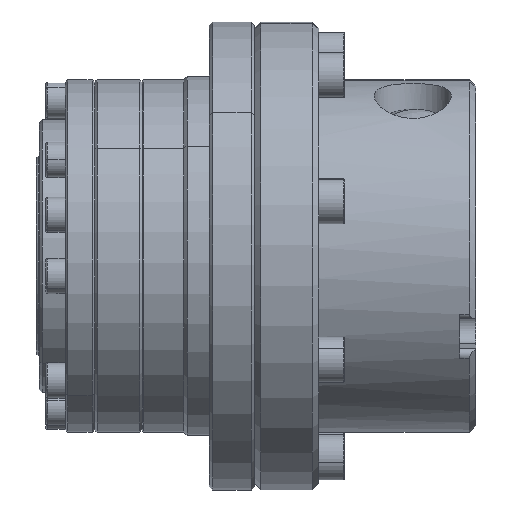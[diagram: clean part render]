
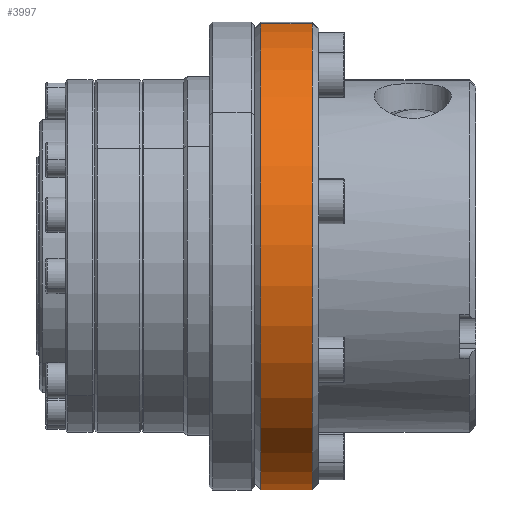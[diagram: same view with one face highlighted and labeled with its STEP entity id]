
A CAD part, front view. The second image highlights one B-rep face of the part: STEP entity #3997.
In plain terms, the highlighted cylindrical face has radius 36.5 mm (diameter 73 mm), a partial arc.
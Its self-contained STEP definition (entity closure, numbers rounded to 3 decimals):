
#3087 = EDGE_CURVE ( 'NONE', #35294, #31695, #3989, .T. ) ;
#3499 = DIRECTION ( 'NONE',  ( -1., 0., 0. ) ) ;
#3989 = LINE ( 'NONE', #28016, #20903 ) ;
#3997 = ADVANCED_FACE ( 'NONE', ( #15154 ), #4344, .T. ) ;
#4344 = CYLINDRICAL_SURFACE ( 'NONE', #16052, 36.5 ) ;
#5960 = CIRCLE ( 'NONE', #21747, 36.5 ) ;
#6063 = CARTESIAN_POINT ( 'NONE',  ( 9., 0., 36.5 ) ) ;
#6378 = CARTESIAN_POINT ( 'NONE',  ( 1., 0., -36.5 ) ) ;
#6862 = EDGE_LOOP ( 'NONE', ( #7836, #43929, #8721, #12955 ) ) ;
#7836 = ORIENTED_EDGE ( 'NONE', *, *, #44067, .F. ) ;
#8594 = DIRECTION ( 'NONE',  ( 1., 0., 0. ) ) ;
#8721 = ORIENTED_EDGE ( 'NONE', *, *, #3087, .T. ) ;
#10169 = DIRECTION ( 'NONE',  ( -1., 0., 0. ) ) ;
#10681 = CARTESIAN_POINT ( 'NONE',  ( 1., 0., 36.5 ) ) ;
#12955 = ORIENTED_EDGE ( 'NONE', *, *, #34371, .T. ) ;
#15154 = FACE_OUTER_BOUND ( 'NONE', #6862, .T. ) ;
#16052 = AXIS2_PLACEMENT_3D ( 'NONE', #36312, #25952, #40540 ) ;
#20903 = VECTOR ( 'NONE', #10169, 1000. ) ;
#20909 = CARTESIAN_POINT ( 'NONE',  ( 9., 0., 0. ) ) ;
#21747 = AXIS2_PLACEMENT_3D ( 'NONE', #40803, #8594, #22461 ) ;
#22461 = DIRECTION ( 'NONE',  ( 0., 0., -1. ) ) ;
#25422 = AXIS2_PLACEMENT_3D ( 'NONE', #20909, #3499, #38768 ) ;
#25513 = VECTOR ( 'NONE', #41682, 1000. ) ;
#25952 = DIRECTION ( 'NONE',  ( -1., 0., 0. ) ) ;
#28016 = CARTESIAN_POINT ( 'NONE',  ( 0., 0., 36.5 ) ) ;
#31695 = VERTEX_POINT ( 'NONE', #10681 ) ;
#33694 = LINE ( 'NONE', #34163, #25513 ) ;
#34163 = CARTESIAN_POINT ( 'NONE',  ( 0., 0., -36.5 ) ) ;
#34371 = EDGE_CURVE ( 'NONE', #31695, #46107, #5960, .T. ) ;
#35294 = VERTEX_POINT ( 'NONE', #6063 ) ;
#36312 = CARTESIAN_POINT ( 'NONE',  ( 0., 0., 0. ) ) ;
#38768 = DIRECTION ( 'NONE',  ( 0., 0., 1. ) ) ;
#39703 = CIRCLE ( 'NONE', #25422, 36.5 ) ;
#40540 = DIRECTION ( 'NONE',  ( 0., 0., 1. ) ) ;
#40803 = CARTESIAN_POINT ( 'NONE',  ( 1., 0., 0. ) ) ;
#41682 = DIRECTION ( 'NONE',  ( -1., 0., 0. ) ) ;
#41709 = EDGE_CURVE ( 'NONE', #46182, #35294, #39703, .T. ) ;
#42842 = CARTESIAN_POINT ( 'NONE',  ( 9., 0., -36.5 ) ) ;
#43929 = ORIENTED_EDGE ( 'NONE', *, *, #41709, .T. ) ;
#44067 = EDGE_CURVE ( 'NONE', #46182, #46107, #33694, .T. ) ;
#46107 = VERTEX_POINT ( 'NONE', #6378 ) ;
#46182 = VERTEX_POINT ( 'NONE', #42842 ) ;
